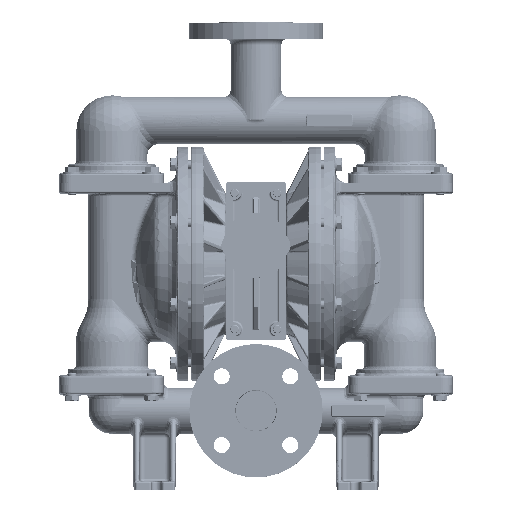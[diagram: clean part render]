
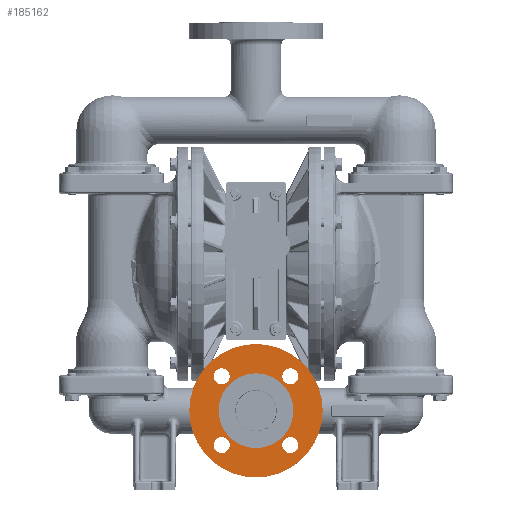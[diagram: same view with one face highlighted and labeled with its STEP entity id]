
A CAD part, top view. The second image highlights one B-rep face of the part: STEP entity #185162.
In plain terms, the highlighted planar face has unit normal (0, 0, 1).
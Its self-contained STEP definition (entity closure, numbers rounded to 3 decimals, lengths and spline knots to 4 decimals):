
#10810 = ORIENTED_EDGE ( 'NONE', *, *, #465941, .T. ) ;
#11116 = VERTEX_POINT ( 'NONE', #230265 ) ;
#13783 = DIRECTION ( 'NONE',  ( -1., 0., 0. ) ) ;
#25765 = EDGE_CURVE ( 'NONE', #193269, #410291, #203379, .T. ) ;
#26675 = AXIS2_PLACEMENT_3D ( 'NONE', #96711, #134730, #183428 ) ;
#35948 = AXIS2_PLACEMENT_3D ( 'NONE', #256545, #251239, #457161 ) ;
#38930 = CARTESIAN_POINT ( 'NONE',  ( 1.5203, -8.0303, 3.19 ) ) ;
#51395 = DIRECTION ( 'NONE',  ( -1., 0., 0. ) ) ;
#69109 = DIRECTION ( 'NONE',  ( 0., 1., 0. ) ) ;
#71552 = VERTEX_POINT ( 'NONE', #343384 ) ;
#75595 = EDGE_CURVE ( 'NONE', #498824, #71552, #518187, .T. ) ;
#75639 = AXIS2_PLACEMENT_3D ( 'NONE', #360657, #154788, #320098 ) ;
#85930 = DIRECTION ( 'NONE',  ( 1., 0., 0. ) ) ;
#86307 = FACE_OUTER_BOUND ( 'NONE', #430988, .T. ) ;
#91484 = AXIS2_PLACEMENT_3D ( 'NONE', #535863, #253919, #85930 ) ;
#96711 = CARTESIAN_POINT ( 'NONE',  ( 0., -6.51, 3.19 ) ) ;
#97322 = AXIS2_PLACEMENT_3D ( 'NONE', #420448, #181876, #13783 ) ;
#108915 = CIRCLE ( 'NONE', #91484, 0.355 ) ;
#117538 = CARTESIAN_POINT ( 'NONE',  ( 0., -4.855, 3.19 ) ) ;
#126956 = FACE_BOUND ( 'NONE', #156125, .T. ) ;
#127447 = EDGE_CURVE ( 'NONE', #437280, #373147, #302518, .T. ) ;
#129189 = AXIS2_PLACEMENT_3D ( 'NONE', #259232, #378473, #297223 ) ;
#129363 = VERTEX_POINT ( 'NONE', #485816 ) ;
#132547 = EDGE_CURVE ( 'NONE', #138101, #508779, #217127, .T. ) ;
#134730 = DIRECTION ( 'NONE',  ( 0., 0., -1. ) ) ;
#138101 = VERTEX_POINT ( 'NONE', #272914 ) ;
#150820 = ORIENTED_EDGE ( 'NONE', *, *, #127447, .F. ) ;
#154395 = ORIENTED_EDGE ( 'NONE', *, *, #392832, .T. ) ;
#154733 = ORIENTED_EDGE ( 'NONE', *, *, #516961, .T. ) ;
#154788 = DIRECTION ( 'NONE',  ( 0., 0., -1. ) ) ;
#156125 = EDGE_LOOP ( 'NONE', ( #150820, #154733 ) ) ;
#157571 = EDGE_LOOP ( 'NONE', ( #527300, #10810 ) ) ;
#161542 = CIRCLE ( 'NONE', #507329, 2.955 ) ;
#165025 = DIRECTION ( 'NONE',  ( 0., 0., -1. ) ) ;
#181876 = DIRECTION ( 'NONE',  ( 0., 0., -1. ) ) ;
#183005 = EDGE_CURVE ( 'NONE', #410291, #193269, #289983, .T. ) ;
#183428 = DIRECTION ( 'NONE',  ( 0., 1., 0. ) ) ;
#183916 = CARTESIAN_POINT ( 'NONE',  ( 1.1653, -8.0303, 3.19 ) ) ;
#184025 = DIRECTION ( 'NONE',  ( 0., 0., -1. ) ) ;
#184360 = VERTEX_POINT ( 'NONE', #291545 ) ;
#185162 = ADVANCED_FACE ( 'NONE', ( #86307, #126956, #370911, #536242, #498201, #248978 ), #251650, .F. ) ;
#188732 = AXIS2_PLACEMENT_3D ( 'NONE', #416924, #165025, #294995 ) ;
#189941 = CARTESIAN_POINT ( 'NONE',  ( 1.5203, -4.9897, 3.19 ) ) ;
#191289 = ORIENTED_EDGE ( 'NONE', *, *, #25765, .T. ) ;
#193269 = VERTEX_POINT ( 'NONE', #448946 ) ;
#200759 = ORIENTED_EDGE ( 'NONE', *, *, #499051, .T. ) ;
#201697 = DIRECTION ( 'NONE',  ( 0., 0., -1. ) ) ;
#203379 = CIRCLE ( 'NONE', #532160, 0.355 ) ;
#213182 = CARTESIAN_POINT ( 'NONE',  ( 1.1653, -4.9897, 3.19 ) ) ;
#214120 = DIRECTION ( 'NONE',  ( 0., 0., -1. ) ) ;
#217127 = CIRCLE ( 'NONE', #26675, 2.955 ) ;
#223587 = ORIENTED_EDGE ( 'NONE', *, *, #477596, .F. ) ;
#228005 = EDGE_LOOP ( 'NONE', ( #261423, #154395 ) ) ;
#230265 = CARTESIAN_POINT ( 'NONE',  ( -1.1653, -4.9897, 3.19 ) ) ;
#241299 = DIRECTION ( 'NONE',  ( 0., 0., -1. ) ) ;
#248978 = FACE_BOUND ( 'NONE', #157571, .T. ) ;
#251239 = DIRECTION ( 'NONE',  ( 0., 0., -1. ) ) ;
#251650 = PLANE ( 'NONE',  #188732 ) ;
#253919 = DIRECTION ( 'NONE',  ( 0., 0., -1. ) ) ;
#256545 = CARTESIAN_POINT ( 'NONE',  ( -1.5203, -8.0303, 3.19 ) ) ;
#259232 = CARTESIAN_POINT ( 'NONE',  ( 0., -6.51, 3.19 ) ) ;
#260018 = CARTESIAN_POINT ( 'NONE',  ( -1.5203, -8.0303, 3.19 ) ) ;
#260074 = CARTESIAN_POINT ( 'NONE',  ( 1.5203, -4.9897, 3.19 ) ) ;
#261423 = ORIENTED_EDGE ( 'NONE', *, *, #499897, .T. ) ;
#261781 = CIRCLE ( 'NONE', #97322, 0.355 ) ;
#266925 = DIRECTION ( 'NONE',  ( 0., -1., 0. ) ) ;
#272914 = CARTESIAN_POINT ( 'NONE',  ( 0., -3.555, 3.19 ) ) ;
#284596 = AXIS2_PLACEMENT_3D ( 'NONE', #38930, #201697, #529578 ) ;
#289983 = CIRCLE ( 'NONE', #393584, 0.355 ) ;
#291545 = CARTESIAN_POINT ( 'NONE',  ( -1.8753, -8.0303, 3.19 ) ) ;
#294995 = DIRECTION ( 'NONE',  ( 0., -1., 0. ) ) ;
#297223 = DIRECTION ( 'NONE',  ( 0., 1., 0. ) ) ;
#299622 = DIRECTION ( 'NONE',  ( 0., 0., -1. ) ) ;
#302518 = CIRCLE ( 'NONE', #129189, 1.655 ) ;
#314301 = CARTESIAN_POINT ( 'NONE',  ( -1.8753, -4.9897, 3.19 ) ) ;
#315333 = ORIENTED_EDGE ( 'NONE', *, *, #183005, .T. ) ;
#320098 = DIRECTION ( 'NONE',  ( 1., 0., 0. ) ) ;
#339301 = CIRCLE ( 'NONE', #35948, 0.355 ) ;
#339773 = CIRCLE ( 'NONE', #469349, 1.655 ) ;
#343384 = CARTESIAN_POINT ( 'NONE',  ( 1.8753, -8.0303, 3.19 ) ) ;
#354902 = VERTEX_POINT ( 'NONE', #314301 ) ;
#359994 = CIRCLE ( 'NONE', #446681, 0.355 ) ;
#360657 = CARTESIAN_POINT ( 'NONE',  ( -1.5203, -4.9897, 3.19 ) ) ;
#370911 = FACE_BOUND ( 'NONE', #441338, .T. ) ;
#373147 = VERTEX_POINT ( 'NONE', #518027 ) ;
#378473 = DIRECTION ( 'NONE',  ( 0., 0., 1. ) ) ;
#380849 = EDGE_LOOP ( 'NONE', ( #200759, #504127 ) ) ;
#384592 = DIRECTION ( 'NONE',  ( 1., 0., 0. ) ) ;
#392832 = EDGE_CURVE ( 'NONE', #184360, #129363, #339301, .T. ) ;
#393584 = AXIS2_PLACEMENT_3D ( 'NONE', #260074, #214120, #51395 ) ;
#398497 = DIRECTION ( 'NONE',  ( 1., 0., 0. ) ) ;
#410291 = VERTEX_POINT ( 'NONE', #213182 ) ;
#416924 = CARTESIAN_POINT ( 'NONE',  ( 0., -6.51, 3.19 ) ) ;
#420448 = CARTESIAN_POINT ( 'NONE',  ( -1.5203, -4.9897, 3.19 ) ) ;
#430988 = EDGE_LOOP ( 'NONE', ( #223587, #533231 ) ) ;
#437280 = VERTEX_POINT ( 'NONE', #117538 ) ;
#440394 = DIRECTION ( 'NONE',  ( 0., 0., -1. ) ) ;
#441338 = EDGE_LOOP ( 'NONE', ( #191289, #315333 ) ) ;
#442293 = EDGE_CURVE ( 'NONE', #11116, #354902, #534439, .T. ) ;
#446681 = AXIS2_PLACEMENT_3D ( 'NONE', #260018, #184025, #384592 ) ;
#448946 = CARTESIAN_POINT ( 'NONE',  ( 1.8753, -4.9897, 3.19 ) ) ;
#457161 = DIRECTION ( 'NONE',  ( -1., 0., 0. ) ) ;
#465941 = EDGE_CURVE ( 'NONE', #354902, #11116, #261781, .T. ) ;
#467815 = CARTESIAN_POINT ( 'NONE',  ( 0., -9.465, 3.19 ) ) ;
#469349 = AXIS2_PLACEMENT_3D ( 'NONE', #493734, #440394, #69109 ) ;
#477596 = EDGE_CURVE ( 'NONE', #508779, #138101, #161542, .T. ) ;
#485816 = CARTESIAN_POINT ( 'NONE',  ( -1.1653, -8.0303, 3.19 ) ) ;
#493734 = CARTESIAN_POINT ( 'NONE',  ( 0., -6.51, 3.19 ) ) ;
#498201 = FACE_BOUND ( 'NONE', #228005, .T. ) ;
#498824 = VERTEX_POINT ( 'NONE', #183916 ) ;
#499051 = EDGE_CURVE ( 'NONE', #71552, #498824, #108915, .T. ) ;
#499897 = EDGE_CURVE ( 'NONE', #129363, #184360, #359994, .T. ) ;
#504127 = ORIENTED_EDGE ( 'NONE', *, *, #75595, .T. ) ;
#505512 = CARTESIAN_POINT ( 'NONE',  ( 0., -6.51, 3.19 ) ) ;
#507329 = AXIS2_PLACEMENT_3D ( 'NONE', #505512, #299622, #266925 ) ;
#508779 = VERTEX_POINT ( 'NONE', #467815 ) ;
#516961 = EDGE_CURVE ( 'NONE', #437280, #373147, #339773, .T. ) ;
#518027 = CARTESIAN_POINT ( 'NONE',  ( 0., -8.165, 3.19 ) ) ;
#518187 = CIRCLE ( 'NONE', #284596, 0.355 ) ;
#527300 = ORIENTED_EDGE ( 'NONE', *, *, #442293, .T. ) ;
#529578 = DIRECTION ( 'NONE',  ( -1., 0., 0. ) ) ;
#532160 = AXIS2_PLACEMENT_3D ( 'NONE', #189941, #241299, #398497 ) ;
#533231 = ORIENTED_EDGE ( 'NONE', *, *, #132547, .F. ) ;
#534439 = CIRCLE ( 'NONE', #75639, 0.355 ) ;
#535863 = CARTESIAN_POINT ( 'NONE',  ( 1.5203, -8.0303, 3.19 ) ) ;
#536242 = FACE_BOUND ( 'NONE', #380849, .T. ) ;
